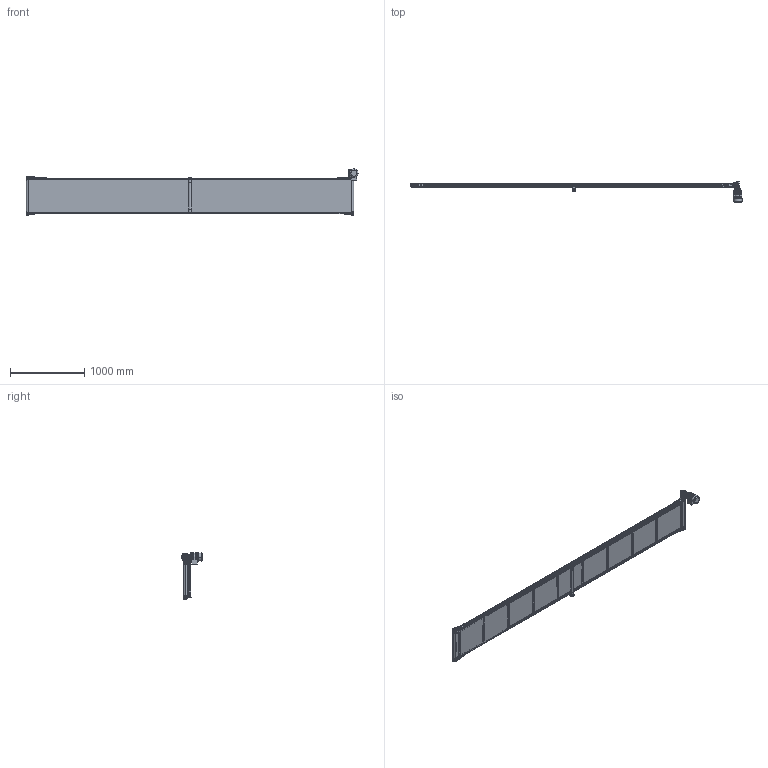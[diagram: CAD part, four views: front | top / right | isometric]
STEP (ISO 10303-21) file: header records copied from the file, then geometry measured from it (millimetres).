
FILE_DESCRIPTION (( 'STEP AP203' ), '1' );
FILE_NAME ('NASTRO_RETTILINEO_TAPPETO.step', '2026-04-26T08:57:57', ( 'Utente Windows' ), ( '' ), 'SwSTEP 2.0', 'SolidWorks 2024', '' );
FILE_SCHEMA (( 'CONFIG_CONTROL_DESIGN' ));
Length unit declared in the file: millimetre
Products named in the file (40): BLOCCO_REGGITAPPETO; 084.303.001; RULLO_50_TRAINO_CINGHIE_30_DX; VITE_DADO_M5X12; 084.302.000 DADI ALUSIC 13x13-1_084.302.004; 084.302.000 DADI ALUSIC 13x13-1_084.302.007; 084.808.012; 084.802.017_084.802.017; VITI TSEI UNI 5933_M5x12 UNI 5933; 084.802.014; VITI TSEI UNI 5933 INOX_0412UNI5933A2; TAPPETO_STANDARD_CINGHIE; 084.803.018; VITI TCEI UNI 5931_M6x12 UNI 5931; BLOCCO_TRAINO_50_STANDARD_30_DX; RULLO_REGGITAPPETO; BLOCCO_BRACCIO_CH03P_VF30P; 084.302.000 DADI ALUSIC 13x13_084.302.004; 084.802.013-2; VITI TE UNI 5739_M6x16 UNI 5739; VITI TSEI UNI 5933_M4x12 UNI 5933; VITE_RONDELLA_M8X20; 084.802.065_Default<A macchina>; 084.802.061; VITI TSEI UNI 5933_M4x10 UNI 5933; BLOCCO_RINVIO_50_STANDARD; LAMIERA_STANDARD; 084.802.028; 084.807.002_084.807.002; TELAIO_50_CINGHIE_Default<A macchina>; BLOCCO_TRAINO_50_STANDARD; RULLO_50_RINVIO_CINGHIE; 084.802.071; NASTRO_RETTILINEO_TAPPETO; VITI TCEI UNI 5931_M4x25 UNI 5931; 084.802.062; CH03P_DX; 084.802.008; 084.301.000 VITI ALUSIC_084.301.003; 084.807.003_084.807.003<A macchina>
Assembly tree (114 placements, depth 4):
  NASTRO_RETTILINEO_TAPPETO
    TAPPETO_STANDARD_CINGHIE
    TELAIO_50_CINGHIE_Default<A macchina>
    LAMIERA_STANDARD  x2
    RULLO_50_TRAINO_CINGHIE_30_DX
    BLOCCO_TRAINO_50_STANDARD_30_DX
      084.807.003_084.807.003<A macchina>
      084.802.017_084.802.017
      084.301.000 VITI ALUSIC_084.301.003  x2
      084.302.000 DADI ALUSIC 13x13-1_084.302.004  x2
      BLOCCO_BRACCIO_CH03P_VF30P
        084.808.012
        084.802.062
        084.802.061
        VITI TE UNI 5739_M6x16 UNI 5739  x4
        084.803.018
        VITI TCEI UNI 5931_M6x12 UNI 5931  x4
      084.802.065_Default<A macchina>
      VITI TCEI UNI 5931_M4x25 UNI 5931  x2
    BLOCCO_TRAINO_50_STANDARD
      084.807.002_084.807.002
      084.802.017_084.802.017
      084.301.000 VITI ALUSIC_084.301.003  x2
      084.302.000 DADI ALUSIC 13x13-1_084.302.004  x2
      VITI TSEI UNI 5933_M4x12 UNI 5933  x4
      084.802.071
      VITI TSEI UNI 5933 INOX_0412UNI5933A2  x2
    RULLO_50_RINVIO_CINGHIE
    BLOCCO_RINVIO_50_STANDARD  x2
      084.807.002_084.807.002
      084.802.017_084.802.017
      084.802.008
      084.301.000 VITI ALUSIC_084.301.003
      084.302.000 DADI ALUSIC 13x13_084.302.004
      VITI TSEI UNI 5933_M4x10 UNI 5933
      084.802.071
    VITE_RONDELLA_M8X20  x17
      084.303.001
      084.301.000 VITI ALUSIC_084.301.003
    VITE_DADO_M5X12  x24
      084.302.000 DADI ALUSIC 13x13-1_084.302.007
      VITI TSEI UNI 5933_M5x12 UNI 5933
    BLOCCO_REGGITAPPETO  x2
      084.301.000 VITI ALUSIC_084.301.003
      084.302.000 DADI ALUSIC 13x13-1_084.302.004
      084.802.017_084.802.017
      084.802.028
      084.802.014
      084.802.013-2
    RULLO_REGGITAPPETO
    CH03P_DX
Bounding box: 4462 x 273 x 619 mm (x, y, z)
Volume: 28075017.2 mm3; surface area: 19560314.9 mm2
Topology: 211 solids, 219 shells, 8549 faces, 22085 edges, 14130 vertices
Faces by surface type: plane 4662, cylinder 2229, cone 687, bspline 522, torus 403, sphere 46
Entity records: 170018 total; most frequent: CARTESIAN_POINT 45576, ORIENTED_EDGE 25444, DIRECTION 24146, EDGE_CURVE 12722, AXIS2_PLACEMENT_3D 8297, VERTEX_POINT 8209, VECTOR 7552, LINE 7552
